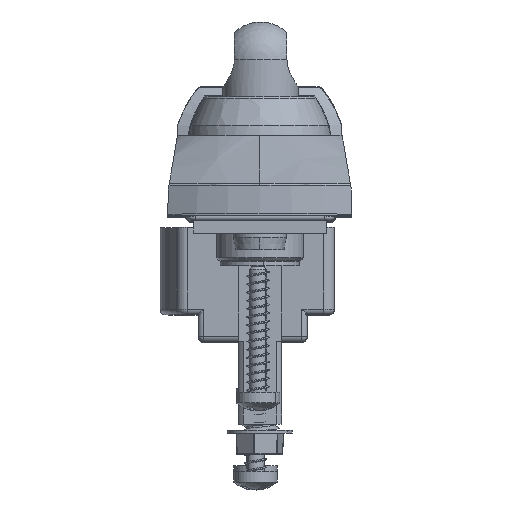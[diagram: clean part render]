
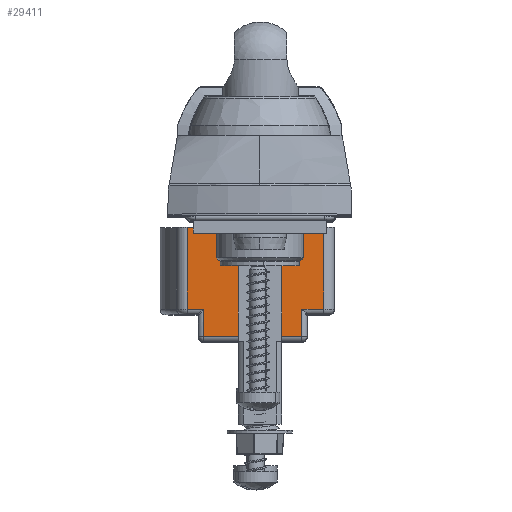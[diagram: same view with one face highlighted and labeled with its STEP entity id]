
A CAD part, top view. The second image highlights one B-rep face of the part: STEP entity #29411.
In plain terms, the highlighted planar face has unit normal (0, 0, 1) as drawn and (-1, 0, 0) by its records, which use the part's own axes.
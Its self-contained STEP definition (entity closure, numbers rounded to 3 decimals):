
#426 = CARTESIAN_POINT ( 'NONE',  ( -77.047, 24.46, 0. ) ) ;
#935 = DIRECTION ( 'NONE',  ( 0., -1., 0. ) ) ;
#936 = VECTOR ( 'NONE', #935, 1000. ) ;
#937 = CARTESIAN_POINT ( 'NONE',  ( -77.047, -0.54, 0. ) ) ;
#938 = LINE ( 'NONE', #937, #936 ) ;
#955 = CARTESIAN_POINT ( 'NONE',  ( -77.047, -0.54, 0. ) ) ;
#2553 = CARTESIAN_POINT ( 'NONE',  ( -77.047, 20.46, 15. ) ) ;
#2554 = CARTESIAN_POINT ( 'NONE',  ( -77.047, 20.46, 20. ) ) ;
#2555 = DIRECTION ( 'NONE',  ( 0., 0., -1. ) ) ;
#2556 = VECTOR ( 'NONE', #2555, 1000. ) ;
#2557 = CARTESIAN_POINT ( 'NONE',  ( -77.047, 20.46, 16. ) ) ;
#2558 = LINE ( 'NONE', #2557, #2556 ) ;
#2610 = DIRECTION ( 'NONE',  ( 0., 0., -1. ) ) ;
#2611 = DIRECTION ( 'NONE',  ( 1., 0., 0. ) ) ;
#2612 = CARTESIAN_POINT ( 'NONE',  ( -77.047, -0.54, 16. ) ) ;
#2613 = AXIS2_PLACEMENT_3D ( 'NONE', #2612, #2611, #2610 ) ;
#2614 = PLANE ( 'NONE',  #2613 ) ;
#2615 = FACE_OUTER_BOUND ( 'NONE', #29415, .T. ) ;
#2684 = CARTESIAN_POINT ( 'NONE',  ( -77.047, 2.46, 20. ) ) ;
#2686 = DIRECTION ( 'NONE',  ( 0., 1., 0. ) ) ;
#2687 = VECTOR ( 'NONE', #2686, 1000. ) ;
#2688 = CARTESIAN_POINT ( 'NONE',  ( -77.047, -0.54, 20. ) ) ;
#2689 = LINE ( 'NONE', #2688, #2687 ) ;
#2690 = DIRECTION ( 'NONE',  ( 0., 0., 1. ) ) ;
#2691 = VECTOR ( 'NONE', #2690, 1000. ) ;
#2692 = CARTESIAN_POINT ( 'NONE',  ( -77.047, 2.46, 16. ) ) ;
#2693 = LINE ( 'NONE', #2692, #2691 ) ;
#2719 = DIRECTION ( 'NONE',  ( 0., 1., 0. ) ) ;
#2720 = VECTOR ( 'NONE', #2719, 1000. ) ;
#2721 = CARTESIAN_POINT ( 'NONE',  ( -77.047, -0.54, 15. ) ) ;
#2722 = LINE ( 'NONE', #2721, #2720 ) ;
#2723 = CARTESIAN_POINT ( 'NONE',  ( -77.047, -0.54, 15. ) ) ;
#2724 = DIRECTION ( 'NONE',  ( 0., 0., -1. ) ) ;
#2725 = VECTOR ( 'NONE', #2724, 1000. ) ;
#2726 = CARTESIAN_POINT ( 'NONE',  ( -77.047, -0.54, 16. ) ) ;
#2727 = LINE ( 'NONE', #2726, #2725 ) ;
#2729 = CARTESIAN_POINT ( 'NONE',  ( -77.047, 2.46, 15. ) ) ;
#2730 = DIRECTION ( 'NONE',  ( 0., 1., 0. ) ) ;
#2731 = VECTOR ( 'NONE', #2730, 1000. ) ;
#2732 = CARTESIAN_POINT ( 'NONE',  ( -77.047, -0.54, 15. ) ) ;
#2733 = LINE ( 'NONE', #2732, #2731 ) ;
#8208 = VERTEX_POINT ( 'NONE', #426 ) ;
#27003 = ORIENTED_EDGE ( 'NONE', *, *, #29542, .F. ) ;
#27015 = ORIENTED_EDGE ( 'NONE', *, *, #29547, .T. ) ;
#28157 = EDGE_CURVE ( 'NONE', #8208, #28211, #938, .T. ) ;
#28211 = VERTEX_POINT ( 'NONE', #955 ) ;
#29402 = EDGE_CURVE ( 'NONE', #29405, #29407, #2558, .T. ) ;
#29405 = VERTEX_POINT ( 'NONE', #2554 ) ;
#29407 = VERTEX_POINT ( 'NONE', #2553 ) ;
#29409 = ORIENTED_EDGE ( 'NONE', *, *, #28157, .T. ) ;
#29411 = ADVANCED_FACE ( 'NONE', ( #2615 ), #2614, .F. ) ;
#29415 = EDGE_LOOP ( 'NONE', ( #29416, #27015, #29545, #29409, #27003, #29497, #29539, #29519 ) ) ;
#29416 = ORIENTED_EDGE ( 'NONE', *, *, #29402, .T. ) ;
#29497 = ORIENTED_EDGE ( 'NONE', *, *, #29535, .T. ) ;
#29518 = EDGE_CURVE ( 'NONE', #29538, #29526, #2693, .T. ) ;
#29519 = ORIENTED_EDGE ( 'NONE', *, *, #29520, .T. ) ;
#29520 = EDGE_CURVE ( 'NONE', #29526, #29405, #2689, .T. ) ;
#29526 = VERTEX_POINT ( 'NONE', #2684 ) ;
#29535 = EDGE_CURVE ( 'NONE', #29544, #29538, #2733, .T. ) ;
#29538 = VERTEX_POINT ( 'NONE', #2729 ) ;
#29539 = ORIENTED_EDGE ( 'NONE', *, *, #29518, .T. ) ;
#29542 = EDGE_CURVE ( 'NONE', #29544, #28211, #2727, .T. ) ;
#29544 = VERTEX_POINT ( 'NONE', #2723 ) ;
#29545 = ORIENTED_EDGE ( 'NONE', *, *, #38606, .T. ) ;
#29547 = EDGE_CURVE ( 'NONE', #29407, #38607, #2722, .T. ) ;
#30144 = CARTESIAN_POINT ( 'NONE',  ( -77.047, 24.46, 15. ) ) ;
#30146 = DIRECTION ( 'NONE',  ( 0., 0., -1. ) ) ;
#30148 = VECTOR ( 'NONE', #30146, 1000. ) ;
#30150 = CARTESIAN_POINT ( 'NONE',  ( -77.047, 24.46, 16. ) ) ;
#30151 = LINE ( 'NONE', #30150, #30148 ) ;
#38606 = EDGE_CURVE ( 'NONE', #38607, #8208, #30151, .T. ) ;
#38607 = VERTEX_POINT ( 'NONE', #30144 ) ;
